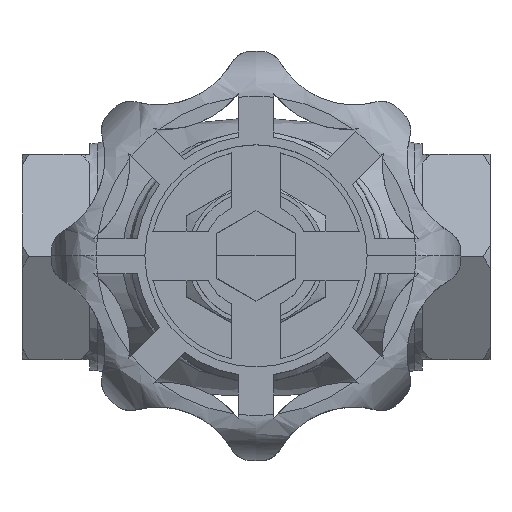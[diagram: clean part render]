
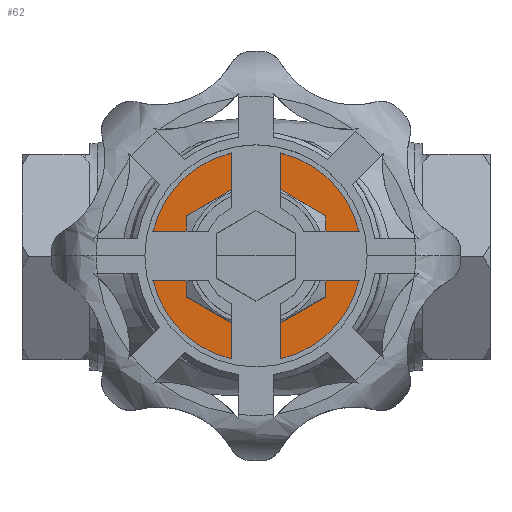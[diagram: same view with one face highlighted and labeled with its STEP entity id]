
A CAD part, top view. The second image highlights one B-rep face of the part: STEP entity #62.
In plain terms, the highlighted planar face has unit normal (0, 0, 1).
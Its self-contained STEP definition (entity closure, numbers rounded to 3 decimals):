
#62=ADVANCED_FACE('',(#501,#502),#500,.T.);
#500=PLANE('',#2822);
#501=FACE_OUTER_BOUND('',#2823,.T.);
#502=FACE_BOUND('',#2824,.T.);
#2819=CARTESIAN_POINT('',(-25.18,-40.258,37.458));
#2820=DIRECTION('',(0.,0.,1.));
#2821=DIRECTION('',(1.,0.,0.));
#2822=AXIS2_PLACEMENT_3D('',#2819,#2820,#2821);
#2823=EDGE_LOOP('',(#5540,#5541));
#2824=EDGE_LOOP('',(#5542,#5543,#5544,#5545,#5546,#5547,#5548,#5549,#5550,#5551,#5552,#5553));
#5540=ORIENTED_EDGE('',*,*,#6923,.F.);
#5541=ORIENTED_EDGE('',*,*,#6924,.F.);
#5542=ORIENTED_EDGE('',*,*,#6909,.T.);
#5543=ORIENTED_EDGE('',*,*,#6925,.F.);
#5544=ORIENTED_EDGE('',*,*,#6915,.T.);
#5545=ORIENTED_EDGE('',*,*,#6926,.F.);
#5546=ORIENTED_EDGE('',*,*,#6927,.T.);
#5547=ORIENTED_EDGE('',*,*,#6928,.F.);
#5548=ORIENTED_EDGE('',*,*,#6929,.T.);
#5549=ORIENTED_EDGE('',*,*,#6930,.F.);
#5550=ORIENTED_EDGE('',*,*,#6931,.T.);
#5551=ORIENTED_EDGE('',*,*,#6932,.F.);
#5552=ORIENTED_EDGE('',*,*,#6919,.T.);
#5553=ORIENTED_EDGE('',*,*,#6933,.F.);
#6909=EDGE_CURVE('',#8143,#8135,#8144,.T.);
#6915=EDGE_CURVE('',#8164,#8178,#8185,.T.);
#6919=EDGE_CURVE('',#8192,#8206,#8213,.T.);
#6923=EDGE_CURVE('',#8239,#8240,#8241,.T.);
#6924=EDGE_CURVE('',#8240,#8239,#8247,.T.);
#6925=EDGE_CURVE('',#8164,#8135,#8253,.T.);
#6926=EDGE_CURVE('',#8259,#8178,#8260,.T.);
#6927=EDGE_CURVE('',#8259,#8266,#8267,.T.);
#6928=EDGE_CURVE('',#8273,#8266,#8274,.T.);
#6929=EDGE_CURVE('',#8273,#8280,#8281,.T.);
#6930=EDGE_CURVE('',#8287,#8280,#8288,.T.);
#6931=EDGE_CURVE('',#8287,#8294,#8295,.T.);
#6932=EDGE_CURVE('',#8192,#8294,#8301,.T.);
#6933=EDGE_CURVE('',#8143,#8206,#8307,.T.);
#8135=VERTEX_POINT('',#12700);
#8143=VERTEX_POINT('',#12705);
#8144=CIRCLE('',#12709,13.762);
#8164=VERTEX_POINT('',#12719);
#8178=VERTEX_POINT('',#12728);
#8185=CIRCLE('',#12735,13.762);
#8192=VERTEX_POINT('',#12737);
#8206=VERTEX_POINT('',#12746);
#8213=CIRCLE('',#12753,13.762);
#8239=VERTEX_POINT('',#12772);
#8240=VERTEX_POINT('',#12773);
#8241=CIRCLE('',#12777,19.369);
#8247=CIRCLE('',#12781,19.369);
#8253=LINE('',#12782,#12783);
#8259=VERTEX_POINT('',#12785);
#8260=LINE('',#12786,#12787);
#8266=VERTEX_POINT('',#12789);
#8267=CIRCLE('',#12793,13.762);
#8273=VERTEX_POINT('',#12794);
#8274=LINE('',#12795,#12796);
#8280=VERTEX_POINT('',#12798);
#8281=CIRCLE('',#12802,13.762);
#8287=VERTEX_POINT('',#12803);
#8288=LINE('',#12804,#12805);
#8294=VERTEX_POINT('',#12807);
#8295=CIRCLE('',#12811,13.762);
#8301=LINE('',#12812,#12813);
#8307=LINE('',#12815,#12816);
#12700=CARTESIAN_POINT('',(11.892,-6.927,37.458));
#12705=CARTESIAN_POINT('',(11.945,-6.836,37.458));
#12706=CARTESIAN_POINT('',(0.,0.,37.458));
#12707=DIRECTION('',(0.,0.,-1.));
#12708=DIRECTION('',(1.,0.,0.));
#12709=AXIS2_PLACEMENT_3D('',#12706,#12707,#12708);
#12719=CARTESIAN_POINT('',(0.053,-13.762,37.458));
#12728=CARTESIAN_POINT('',(-0.053,-13.762,37.458));
#12732=CARTESIAN_POINT('',(0.,0.,37.458));
#12733=DIRECTION('',(0.,0.,-1.));
#12734=DIRECTION('',(1.,0.,0.));
#12735=AXIS2_PLACEMENT_3D('',#12732,#12733,#12734);
#12737=CARTESIAN_POINT('',(11.892,6.927,37.458));
#12746=CARTESIAN_POINT('',(11.945,6.836,37.458));
#12750=CARTESIAN_POINT('',(0.,0.,37.458));
#12751=DIRECTION('',(0.,0.,-1.));
#12752=DIRECTION('',(1.,0.,0.));
#12753=AXIS2_PLACEMENT_3D('',#12750,#12751,#12752);
#12772=CARTESIAN_POINT('',(19.369,0.,37.458));
#12773=CARTESIAN_POINT('',(-19.369,0.,37.458));
#12774=CARTESIAN_POINT('',(0.,0.,37.458));
#12775=DIRECTION('',(0.,0.,-1.));
#12776=DIRECTION('',(-1.,0.,0.));
#12777=AXIS2_PLACEMENT_3D('',#12774,#12775,#12776);
#12778=CARTESIAN_POINT('',(0.,0.,37.458));
#12779=DIRECTION('',(0.,0.,-1.));
#12780=DIRECTION('',(-1.,0.,0.));
#12781=AXIS2_PLACEMENT_3D('',#12778,#12779,#12780);
#12782=CARTESIAN_POINT('',(0.053,-13.762,37.458));
#12783=VECTOR('',#12784,13.671);
#12784=DIRECTION('',(0.866,0.5,0.));
#12785=CARTESIAN_POINT('',(-11.892,-6.927,37.458));
#12786=CARTESIAN_POINT('',(-11.892,-6.927,37.458));
#12787=VECTOR('',#12788,13.671);
#12788=DIRECTION('',(0.866,-0.5,0.));
#12789=CARTESIAN_POINT('',(-11.945,-6.836,37.458));
#12790=CARTESIAN_POINT('',(0.,0.,37.458));
#12791=DIRECTION('',(0.,0.,-1.));
#12792=DIRECTION('',(1.,0.,0.));
#12793=AXIS2_PLACEMENT_3D('',#12790,#12791,#12792);
#12794=CARTESIAN_POINT('',(-11.945,6.836,37.458));
#12795=CARTESIAN_POINT('',(-11.945,6.836,37.458));
#12796=VECTOR('',#12797,13.671);
#12797=DIRECTION('',(0.,-1.,0.));
#12798=CARTESIAN_POINT('',(-11.892,6.927,37.458));
#12799=CARTESIAN_POINT('',(0.,0.,37.458));
#12800=DIRECTION('',(0.,0.,-1.));
#12801=DIRECTION('',(1.,0.,0.));
#12802=AXIS2_PLACEMENT_3D('',#12799,#12800,#12801);
#12803=CARTESIAN_POINT('',(-0.053,13.762,37.458));
#12804=CARTESIAN_POINT('',(-0.053,13.762,37.458));
#12805=VECTOR('',#12806,13.671);
#12806=DIRECTION('',(-0.866,-0.5,0.));
#12807=CARTESIAN_POINT('',(0.053,13.762,37.458));
#12808=CARTESIAN_POINT('',(0.,0.,37.458));
#12809=DIRECTION('',(0.,0.,-1.));
#12810=DIRECTION('',(1.,0.,0.));
#12811=AXIS2_PLACEMENT_3D('',#12808,#12809,#12810);
#12812=CARTESIAN_POINT('',(11.892,6.927,37.458));
#12813=VECTOR('',#12814,13.671);
#12814=DIRECTION('',(-0.866,0.5,0.));
#12815=CARTESIAN_POINT('',(11.945,-6.836,37.458));
#12816=VECTOR('',#12817,13.671);
#12817=DIRECTION('',(0.,1.,0.));
